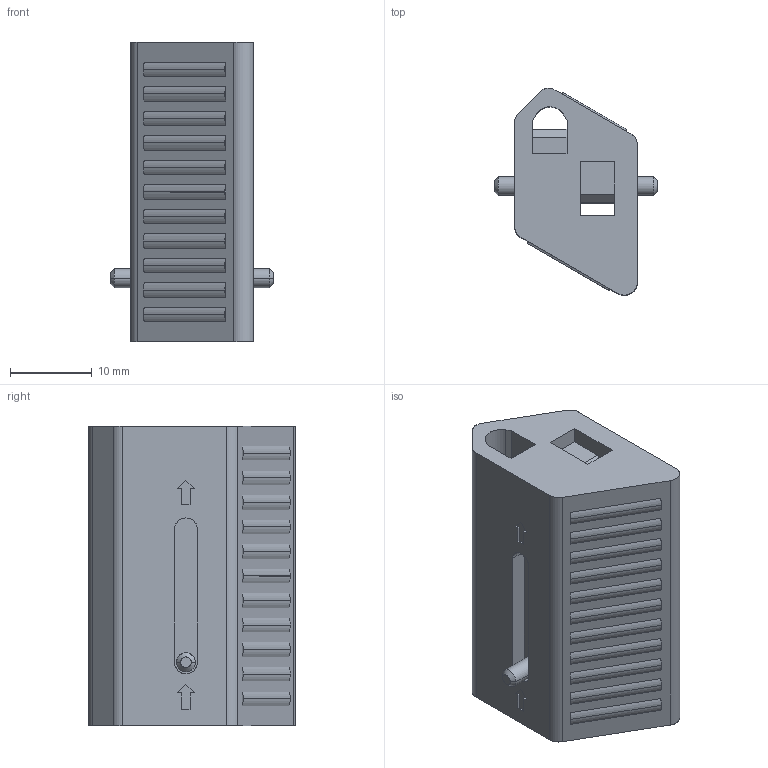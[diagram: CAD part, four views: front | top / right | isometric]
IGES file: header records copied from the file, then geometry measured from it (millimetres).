
Start section: SolidWorks IGES file using analytic representation for surfaces
Bounding box: 20 x 25.3 x 36.6 mm (x, y, z)
Surface area: 4194.8 mm2 (no closed solid volume)
Topology: 0 solids, 0 shells, 163 faces, 1148 edges, 1148 vertices
Faces by surface type: bspline 112, revolution 51
